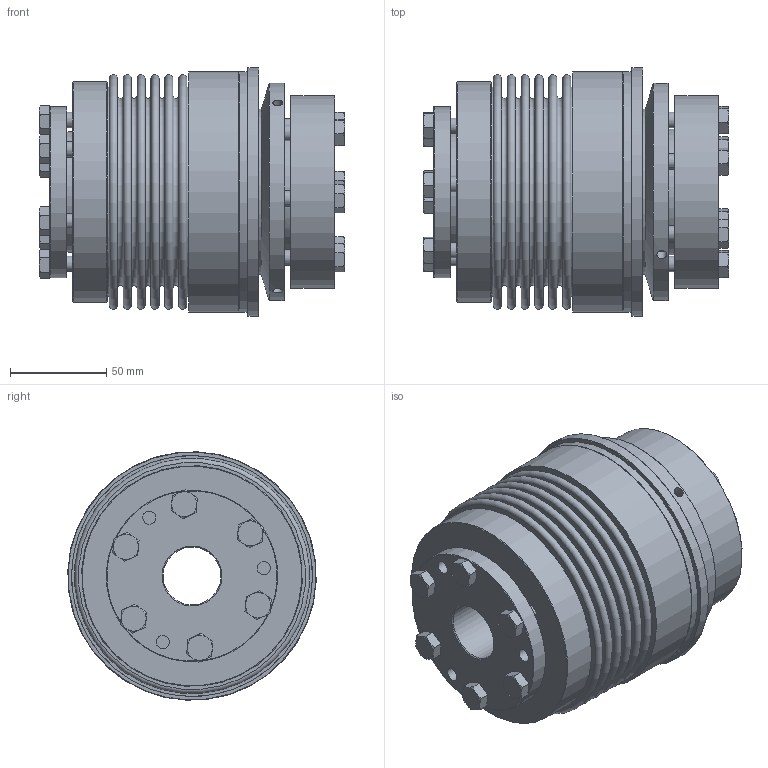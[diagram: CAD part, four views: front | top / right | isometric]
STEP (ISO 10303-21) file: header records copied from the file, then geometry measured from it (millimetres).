
FILE_DESCRIPTION( ( 'Unknown' ), '1' );
FILE_NAME( 'K:/Konstruktion/Korrigierte 3D Modelle/KBK-B-IA/KBK-BIA-500-160.stp', 'Unknown', ( 'Unknown' ), ( 'Unknown' ), 'PSStep 16.0.42', 'Unknown', ' ' );
FILE_SCHEMA( ( 'AUTOMOTIVE_DESIGN { 1 0 10303 214 1 1 1 1 }' ) );
Length unit declared in the file: millimetre
Products named in the file (18): Druckring 500_0; KBK L-A-500 Grundkörper_0; din_en_24017_m8x35_0; Stellring 500_0; Druckring L-A-500_0; BA5-500; Hex Screw GradeC_ISO_ISO 4018 - M8 x 35-NN_2; BA500_Standard_2; KB500_Standard_2; A-500; Assem1; BL500_Standard_2; Flansch BK500
Assembly tree (27 placements, depth 4):
  Assem1
    BL500_Standard_2
    Flansch BK500
    BA5-500
      Hex Screw GradeC_ISO_ISO 4018 - M8 x 35-NN_2  x6
      BA500_Standard_2
      KB500_Standard_2
    A-500
      Stellring 500_0
        Stellring 500_0
      Druckring 500_0
        Druckring 500_0
      KBK L-A-500 Grundkörper_0
        KBK L-A-500 Grundkörper_0
      din_en_24017_m8x35_0  x6
        din_en_24017_m8x35_0
      Druckring L-A-500_0
        Druckring L-A-500_0
Bounding box: 158.35 x 128.86 x 128.86 mm (x, y, z)
Volume: 983942.5 mm3; surface area: 333450.6 mm2
Topology: 20 solids, 20 shells, 431 faces, 892 edges, 567 vertices
Faces by surface type: plane 195, cone 127, cylinder 79, torus 30
Full cylindrical faces by diameter (mm): 3.242 x3, 5.1 x3, 5.2 x3, 6.647 x6, 6.8 x9, 8 x12, 8.5 x6, 9 x6, 11.63 x6, 30 x1, 35 x1, 62 x1, 62.6 x1, 65 x2, 65.111 x1, 80 x1, 86 x2, 89 x1, 90 x1, 93 x1, 100 x1, 104.5 x1, 107.7 x2, 108.9 x2, 113 x1, 114 x1, 114.5 x1, 125 x2, 129 x1
Entity records: 8274 total; most frequent: CARTESIAN_POINT 1365, DIRECTION 1072, ORIENTED_EDGE 662, AXIS2_PLACEMENT_3D 508, EDGE_LOOP 468, EDGE_CURVE 331, FACE_OUTER_BOUND 325, VERTEX_POINT 295
